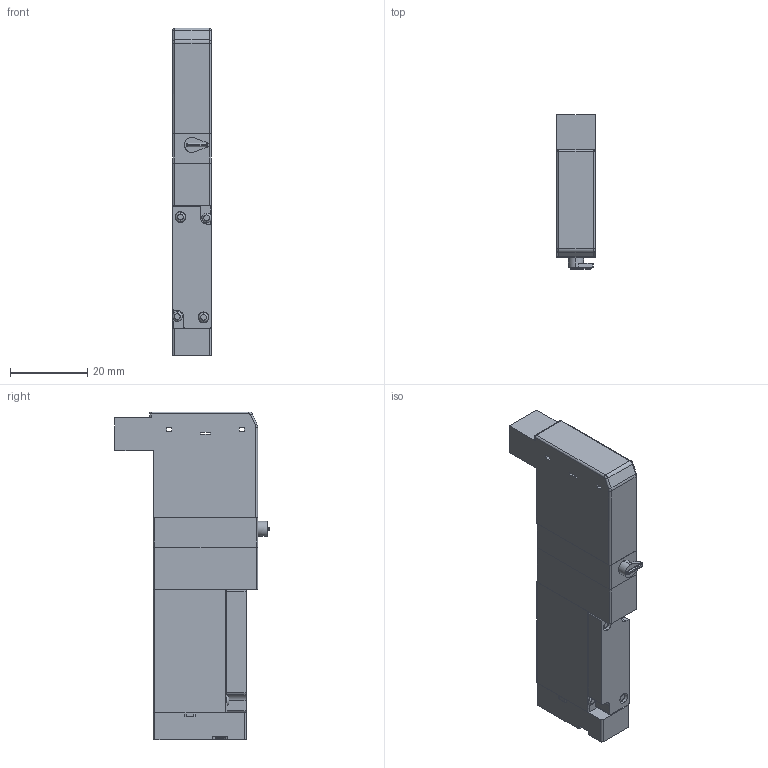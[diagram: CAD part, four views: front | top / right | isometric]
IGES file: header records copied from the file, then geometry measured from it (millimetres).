
Start section: ------------------------------------------------------------------------
Global section: file name: D:\ICADMX\tmp\trans3d_spg\CVICAD02.18204.F10T0-R-A1_8396.igs; native system: spGate; preprocessor: ver12.6.6; author: Unknown; organization: Unknown; date: 200901.142332; units: millimetre
Bounding box: 10.2 x 40 x 85 mm (x, y, z)
Volume: 22277.1 mm3; surface area: 10032.8 mm2
Topology: 6 solids, 6 shells, 190 faces, 464 edges, 294 vertices
Faces by surface type: bspline 190
